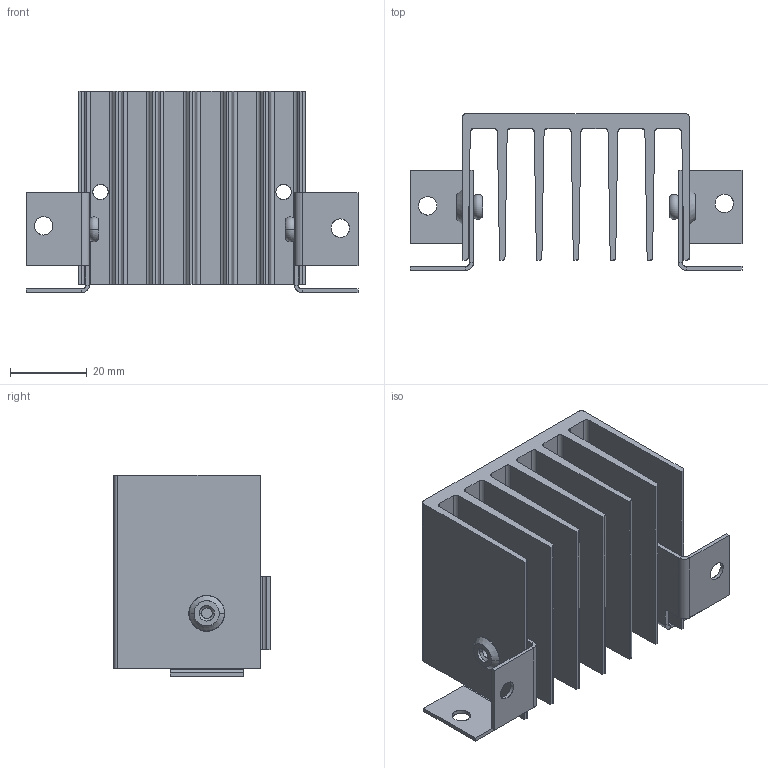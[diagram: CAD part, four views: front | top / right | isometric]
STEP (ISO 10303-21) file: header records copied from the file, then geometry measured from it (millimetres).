
FILE_DESCRIPTION((''),'2;1');
FILE_NAME('SSRHP25_HRB8973401_1_6_ASM_ASM','2021-01-15T18:04:06',('SESA121199'),('Schneider-Electric'),'CREO PARAMETRIC BY PTC INC, 2019471','CREO PARAMETRIC BY PTC INC, 2019471','');
FILE_SCHEMA(('AP242_MANAGED_MODEL_BASED_3D_ENGINEERING_MIM_LF { 1 0 10303 442 1 1 4 }'));
Length unit declared in the file: millimetre
Products named in the file (7): HRB8973401_PRT_1; HRB8973401-_PRT_1; HRB8973401-_INST_PRT_1; RIVET_HRB8973301_HEATSINK_PRT_1; HRB8973401_ASM_ASM_1_ASM; HRB8973401_1_6_ASM_1_ASM; SSRHP25_HRB8973401_1_6_ASM_ASM
Assembly tree (7 placements, depth 4):
  SSRHP25_HRB8973401_1_6_ASM_ASM
    HRB8973401_1_6_ASM_1_ASM
      HRB8973401_ASM_ASM_1_ASM
        HRB8973401_PRT_1
        HRB8973401-_PRT_1
        HRB8973401-_INST_PRT_1
        RIVET_HRB8973301_HEATSINK_PRT_1  x2
Bounding box: 86.31 x 40.7 x 52.4 mm (x, y, z)
Surface area: 36589 mm2 (no closed solid volume)
Topology: 0 solids, 153 shells, 153 faces, 758 edges, 758 vertices
Faces by surface type: plane 76, cylinder 61, torus 8, cone 8
Entity records: 8339 total; most frequent: CARTESIAN_POINT 2809, DIRECTION 1048, VERTEX_POINT 686, ORIENTED_EDGE 686, EDGE_CURVE 686, VECTOR 438, LINE 438, AXIS2_PLACEMENT_3D 305
